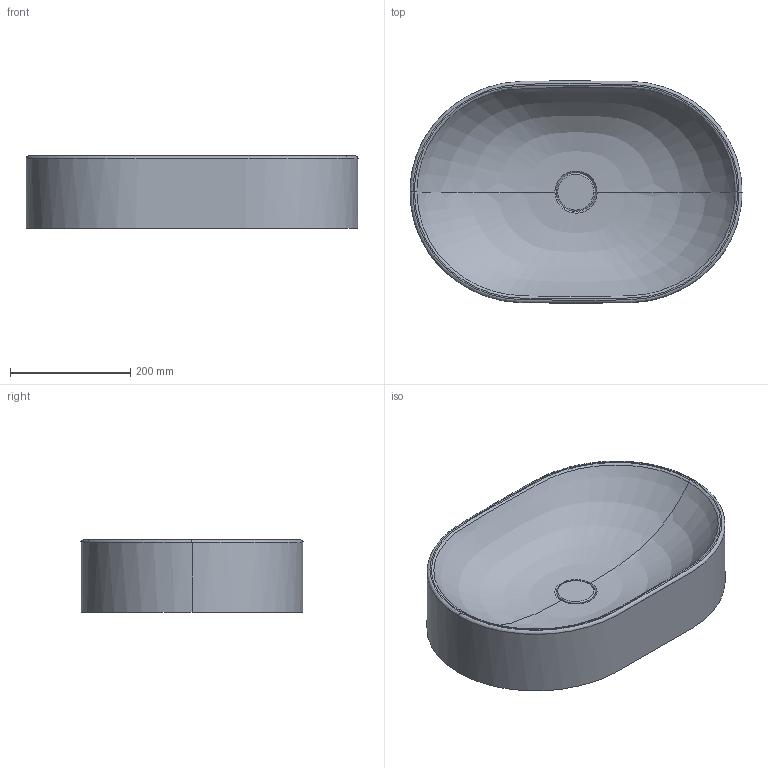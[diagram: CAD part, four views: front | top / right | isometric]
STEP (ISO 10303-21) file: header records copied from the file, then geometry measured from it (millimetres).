
FILE_DESCRIPTION(/* description */ (''),/* implementation_level */ '2;1');
FILE_NAME(/* name */ '55X37~1',/* time_stamp */ '2019-09-17T11:31:18+02:00',/* author */ (''),/* organization */ (''),/* preprocessor_version */ 'ST-DEVELOPER v16.5',/* originating_system */ '',/* authorisation */ '');
FILE_SCHEMA (('AUTOMOTIVE_DESIGN'));
Length unit declared in the file: millimetre
Products named in the file (1): Document
Bounding box: 551.4 x 368.73 x 120 mm (x, y, z)
Volume: 27718.9 mm3; surface area: 575344.3 mm2
Topology: 1 solids, 2 shells, 21 faces, 43 edges, 25 vertices
Faces by surface type: bspline 18, plane 3
Entity records: 6803 total; most frequent: CARTESIAN_POINT 6517, ORIENTED_EDGE 84, EDGE_CURVE 43, VERTEX_POINT 25, ADVANCED_FACE 21, FACE_OUTER_BOUND 21, EDGE_LOOP 21, B_SPLINE_CURVE_WITH_KNOTS 19
